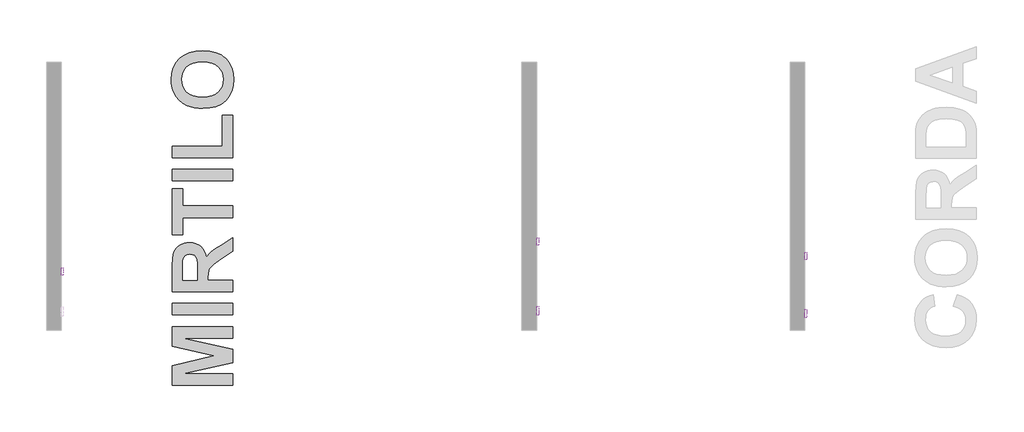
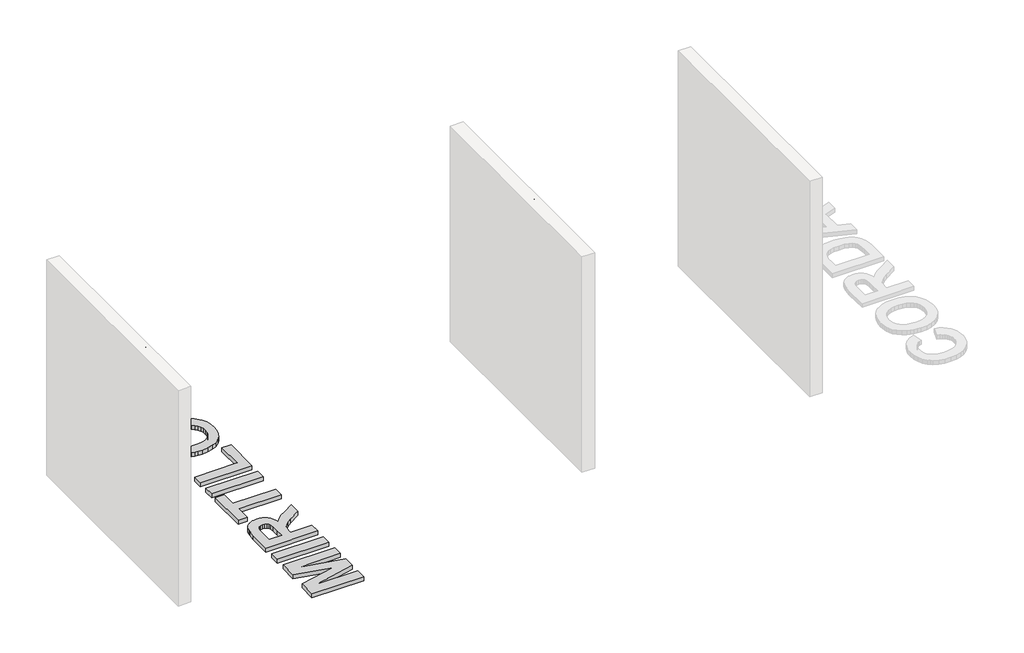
# One storey, part 5 of 9: 6 proxies.
"""IFC4 building model written with IfcOpenShell, lengths in millimetres."""

from ifc_helpers import new_model, si_unit, frame, origin, origin_with_axes, place, context, project, spatial, polyline, outline, extrude, element, save

model = new_model("IFC4")

# Units and contexts
model_context = context("Model", 3, world=origin())
ifc_project = project(units=[si_unit("LENGTHUNIT", "METRE", prefix="MILLI")], contexts=[model_context])

# Site, building, storey
site = spatial("IfcSite", under=ifc_project)
building = spatial("IfcBuilding", under=site)
storey = spatial("IfcBuildingStorey", under=building, Name="PORTOBELLO - SHOWROOM", Elevation=0.0)

# Proxies
placement = place(None, origin())
element("IfcBuildingElementProxy", 1, Name="10mm Arial", ObjectType="10mm Arial", at=placement, inside=storey, context=model_context, shape_type="SweptSolid", body=[
    extrude(outline(polyline([(-2397.5035684, 2581.4003506), (-2384.9465296, 2578.162989), (-2390.7406711, 2563.5304826), (-2399.8334877, 2552.840445), (-2411.7773898, 2546.3013425), (-2426.1247876, 2544.1216417), (-2440.689849, 2545.7709793), (-2452.256672, 2550.7189922), (-2461.1226281, 2558.794002), (-2467.5850885, 2569.8243304), (-2472.845801, 2596.6797161), (-2471.3589446, 2611.3275509), (-2466.8983754, 2623.9765601), (-2459.6970854, 2634.2251394), (-2449.9880664, 2641.6716841), (-2438.4733599, 2646.2058297), (-2425.8550075, 2647.7172116), (-2412.0870238, 2645.7613056), (-2400.7041418, 2639.8935878), (-2392.0619806, 2630.4758087), (-2386.5161595, 2617.869719), (-2399.0731983, 2614.8776121), (-2409.3738941, 2630.3163932), (-2426.3455168, 2635.1601728), (-2445.9904154, 2629.7890957), (-2457.0881889, 2615.3681214), (-2460.2887623, 2596.7042416), (-2456.4995777, 2575.0727802), (-2444.7028284, 2561.25268), (-2427.3755864, 2556.6786805), (-2416.8940152, 2558.2360476), (-2408.1598835, 2562.9081489), (-2401.5655988, 2570.6459336), (-2397.5035684, 2581.4003506)])), frame((7985.6593854, 0.0, 0.0), z_axis=(1.0, 0.0, 0.0), x_axis=(0.0, 1.0, 0.0)), (0.0, 0.0, 1.0), 20.0),
    extrude(outline(polyline([(-2372.3894909, 2582.5775729), (-2369.6732955, 2600.3646674), (-2361.5247093, 2612.8665239), (-2351.4570053, 2618.9917591), (-2339.4027386, 2621.0335042), (-2326.2111034, 2618.547235), (-2315.6743499, 2611.0884276), (-2308.7673655, 2599.245693), (-2306.4650373, 2583.6076425), (-2310.5362647, 2561.2649427), (-2322.3943277, 2548.6220648), (-2339.4027386, 2544.1216417), (-2352.7537894, 2546.5987138), (-2363.2782801, 2554.0299301), (-2370.1116882, 2566.120985), (-2372.3894909, 2582.5775729)]), holes=[polyline([(-2359.8324521, 2582.6020984), (-2358.3793182, 2571.2376104), (-2354.0199166, 2563.1411409), (-2347.4593543, 2558.2942956), (-2339.4027386, 2556.6786805), (-2331.3829111, 2558.3034926), (-2324.8346116, 2563.1779291), (-2320.47521, 2571.3816976), (-2319.0220761, 2582.9945059), (-2320.484407, 2594.0279), (-2324.8713998, 2602.014005), (-2331.4288964, 2606.8608503), (-2339.4027386, 2608.4764654), (-2347.4593543, 2606.8669817), (-2354.0199166, 2602.0385305), (-2358.3793182, 2593.960455), (-2359.8324521, 2582.6020984)])]), frame((7985.6593854, 0.0, 0.0), z_axis=(1.0, 0.0, 0.0), x_axis=(0.0, 1.0, 0.0)), (0.0, 0.0, 1.0), 20.0),
    extrude(outline(polyline([(-2292.3383687, 2545.6912716), (-2292.3383687, 2619.4638743), (-2281.3509598, 2619.4638743), (-2281.3509598, 2608.5500418), (-2273.5518615, 2618.605483), (-2265.7037123, 2621.0335042), (-2253.0976226, 2617.1584805), (-2257.2914773, 2605.9012914), (-2266.1206452, 2608.4764654), (-2273.2207677, 2605.9993933), (-2277.7457162, 2599.1322627), (-2279.78133, 2584.4660339), (-2279.78133, 2545.6912716), (-2292.3383687, 2545.6912716)])), frame((7985.6593854, 0.0, 0.0), z_axis=(1.0, 0.0, 0.0), x_axis=(0.0, 1.0, 0.0)), (0.0, 0.0, 1.0), 20.0),
    extrude(outline(polyline([(-2199.7302078, 2545.6912716), (-2199.7302078, 2557.5370718), (-2208.0382095, 2547.4754992), (-2219.5222591, 2544.1216417), (-2235.0714048, 2548.9776841), (-2246.0588137, 2562.5280042), (-2249.9583629, 2582.5039965), (-2246.3653821, 2602.4922516), (-2235.5987023, 2616.2510382), (-2219.5713101, 2621.0335042), (-2207.99529, 2617.6122016), (-2199.7302078, 2608.7217201), (-2199.7302078, 2646.1475817), (-2187.173169, 2646.1475817), (-2187.173169, 2545.6912716), (-2199.7302078, 2545.6912716)]), holes=[polyline([(-2237.4013241, 2582.5530475), (-2235.9849784, 2571.1946909), (-2231.7359414, 2563.1166154), (-2225.5616552, 2558.2881642), (-2218.3695622, 2556.6786805), (-2211.1805349, 2558.2145878), (-2205.1625986, 2562.8223098), (-2201.0883055, 2570.5876856), (-2199.7302078, 2581.5965543), (-2201.112831, 2593.6324269), (-2205.2607005, 2601.9772168), (-2211.4319209, 2606.8516533), (-2218.884597, 2608.4764654), (-2226.1502664, 2606.9160326), (-2232.1038234, 2602.2347342), (-2236.0769489, 2594.1934469), (-2237.4013241, 2582.5530475)])]), frame((7985.6593854, 0.0, 0.0), z_axis=(1.0, 0.0, 0.0), x_axis=(0.0, 1.0, 0.0)), (0.0, 0.0, 1.0), 20.0),
    extrude(outline(polyline([(-2121.2487155, 2555.1090506), (-2133.4256095, 2546.5987138), (-2146.8778278, 2544.1216417), (-2157.3716617, 2545.6115638), (-2165.1125121, 2550.08133), (-2169.8857809, 2556.8687528), (-2171.4768706, 2565.3116446), (-2169.0733749, 2575.2444585), (-2162.7580673, 2582.4549456), (-2153.9656876, 2586.575224), (-2143.100906, 2588.4636849), (-2121.3222919, 2592.7801669), (-2121.2487155, 2595.5760701), (-2124.7068063, 2604.8466964), (-2138.5882202, 2608.4764654), (-2151.2924118, 2606.060707), (-2157.350202, 2597.4890565), (-2169.9072407, 2599.0586863), (-2164.4748499, 2611.3214195), (-2153.5364919, 2618.5073811), (-2136.9695394, 2621.0335042), (-2121.7514876, 2618.8016867), (-2113.1553116, 2613.1976177), (-2109.3048134, 2604.6750181), (-2108.6916767, 2593.6876092), (-2108.6916767, 2578.0648871), (-2108.0540146, 2556.2494848), (-2105.552417, 2545.6912716), (-2118.1094558, 2545.6912716), (-2121.2487155, 2555.1090506)]), holes=[polyline([(-2121.2487155, 2580.2231282), (-2141.5067507, 2576.37263), (-2152.3102186, 2574.3370163), (-2157.2030492, 2571.0260783), (-2158.9198318, 2566.1945614), (-2155.1796982, 2559.4010072), (-2144.204552, 2556.6786805), (-2131.5003604, 2559.6830501), (-2123.3088547, 2566.9548509), (-2121.3222919, 2576.6669356), (-2121.2487155, 2580.2231282)])]), frame((7985.6593854, 0.0, 0.0), z_axis=(1.0, 0.0, 0.0), x_axis=(0.0, 1.0, 0.0)), (0.0, 0.0, 1.0), 20.0),
])
element("IfcBuildingElementProxy", 2, Name="10mm Arial", ObjectType="10mm Arial", at=placement, inside=storey, context=model_context, shape_type="SweptSolid", body=[
    extrude(outline(polyline([(-2058.1369115, 2545.6912716), (-2058.1369115, 2646.1475817), (-2020.9072536, 2646.1475817), (-2005.8976682, 2645.1910885), (-1993.6962487, 2640.4944617), (-1985.7867858, 2630.782377), (-1982.7946789, 2617.0849041), (-1984.8149642, 2605.2452352), (-1990.87582, 2595.3798664), (-2002.2096512, 2588.7212023), (-2020.0488622, 2586.5016476), (-2045.5798727, 2586.5016476), (-2045.5798727, 2545.6912716), (-2058.1369115, 2545.6912716)]), holes=[polyline([(-2045.5798727, 2599.0586863), (-2019.3130983, 2599.0586863), (-2000.8208966, 2603.669474), (-1996.7190124, 2609.2183608), (-1995.3517176, 2616.6434457), (-1998.5768165, 2627.0422434), (-2007.0503651, 2632.7321516), (-2019.6074039, 2633.5905429), (-2045.5798727, 2633.5905429), (-2045.5798727, 2599.0586863)])]), frame((7985.6593854, 0.0, 0.0), z_axis=(1.0, 0.0, 0.0), x_axis=(0.0, 1.0, 0.0)), (0.0, 0.0, 1.0), 20.0),
    extrude(outline(polyline([(-1970.2376401, 2582.5775729), (-1967.5214447, 2600.3646674), (-1959.3728585, 2612.8665239), (-1949.3051546, 2618.9917591), (-1937.2508879, 2621.0335042), (-1924.0592527, 2618.547235), (-1913.5224992, 2611.0884276), (-1906.6155147, 2599.245693), (-1904.3131866, 2583.6076425), (-1908.384414, 2561.2649427), (-1920.242477, 2548.6220648), (-1937.2508879, 2544.1216417), (-1950.6019386, 2546.5987138), (-1961.1264294, 2554.0299301), (-1967.9598374, 2566.120985), (-1970.2376401, 2582.5775729)]), holes=[polyline([(-1957.6806013, 2582.6020984), (-1956.2274675, 2571.2376104), (-1951.8680658, 2563.1411409), (-1945.3075036, 2558.2942956), (-1937.2508879, 2556.6786805), (-1929.2310604, 2558.3034926), (-1922.6827609, 2563.1779291), (-1918.3233592, 2571.3816976), (-1916.8702253, 2582.9945059), (-1918.3325563, 2594.0279), (-1922.7195491, 2602.014005), (-1929.2770456, 2606.8608503), (-1937.2508879, 2608.4764654), (-1945.3075036, 2606.8669817), (-1951.8680658, 2602.0385305), (-1956.2274675, 2593.960455), (-1957.6806013, 2582.6020984)])]), frame((7985.6593854, 0.0, 0.0), z_axis=(1.0, 0.0, 0.0), x_axis=(0.0, 1.0, 0.0)), (0.0, 0.0, 1.0), 20.0),
    extrude(outline(polyline([(-1890.186518, 2545.6912716), (-1890.186518, 2619.4638743), (-1879.199109, 2619.4638743), (-1879.199109, 2608.5500418), (-1871.4000107, 2618.605483), (-1863.5518615, 2621.0335042), (-1850.9457718, 2617.1584805), (-1855.1396265, 2605.9012914), (-1863.9687944, 2608.4764654), (-1871.0689169, 2605.9993933), (-1875.5938655, 2599.1322627), (-1877.6294792, 2584.4660339), (-1877.6294792, 2545.6912716), (-1890.186518, 2545.6912716)])), frame((7985.6593854, 0.0, 0.0), z_axis=(1.0, 0.0, 0.0), x_axis=(0.0, 1.0, 0.0)), (0.0, 0.0, 1.0), 20.0),
    extrude(outline(polyline([(-1816.4139152, 2556.1636457), (-1814.8442853, 2545.3233896), (-1824.2375389, 2544.1216417), (-1834.758964, 2546.2063064), (-1840.0074138, 2551.6754853), (-1841.5279927, 2565.9247813), (-1841.5279927, 2606.9068356), (-1850.9457718, 2606.9068356), (-1850.9457718, 2617.1584805), (-1850.9457718, 2619.4638743), (-1841.5279927, 2619.4638743), (-1841.5279927, 2637.3919902), (-1828.970954, 2644.7741556), (-1828.970954, 2619.4638743), (-1816.4139152, 2619.4638743), (-1816.4139152, 2606.9068356), (-1828.970954, 2606.9068356), (-1828.970954, 2566.2926633), (-1828.3087664, 2559.8179402), (-1826.1627881, 2557.5248091), (-1821.8830942, 2556.6786805), (-1816.4139152, 2556.1636457)])), frame((7985.6593854, 0.0, 0.0), z_axis=(1.0, 0.0, 0.0), x_axis=(0.0, 1.0, 0.0)), (0.0, 0.0, 1.0), 20.0),
    extrude(outline(polyline([(-1806.9961361, 2582.5775729), (-1804.2799407, 2600.3646674), (-1796.1313545, 2612.8665239), (-1786.0636506, 2618.9917591), (-1774.0093839, 2621.0335042), (-1760.8177487, 2618.547235), (-1750.2809952, 2611.0884276), (-1743.3740107, 2599.245693), (-1741.0716826, 2583.6076425), (-1745.14291, 2561.2649427), (-1757.000973, 2548.6220648), (-1774.0093839, 2544.1216417), (-1787.3604346, 2546.5987138), (-1797.8849254, 2554.0299301), (-1804.7183334, 2566.120985), (-1806.9961361, 2582.5775729)]), holes=[polyline([(-1794.4390973, 2582.6020984), (-1792.9859635, 2571.2376104), (-1788.6265618, 2563.1411409), (-1782.0659996, 2558.2942956), (-1774.0093839, 2556.6786805), (-1765.9895564, 2558.3034926), (-1759.4412569, 2563.1779291), (-1755.0818552, 2571.3816976), (-1753.6287213, 2582.9945059), (-1755.0910523, 2594.0279), (-1759.4780451, 2602.014005), (-1766.0355416, 2606.8608503), (-1774.0093839, 2608.4764654), (-1782.0659996, 2606.8669817), (-1788.6265618, 2602.0385305), (-1792.9859635, 2593.960455), (-1794.4390973, 2582.6020984)])]), frame((7985.6593854, 0.0, 0.0), z_axis=(1.0, 0.0, 0.0), x_axis=(0.0, 1.0, 0.0)), (0.0, 0.0, 1.0), 20.0),
    extrude(outline(polyline([(-1714.3879752, 2545.6912716), (-1726.945014, 2545.6912716), (-1726.945014, 2646.1475817), (-1714.3879752, 2646.1475817), (-1714.3879752, 2608.8933983), (-1705.5955955, 2617.9984777), (-1694.6695002, 2621.0335042), (-1682.087936, 2618.2989147), (-1672.3268004, 2610.610181), (-1666.3303239, 2598.6540161), (-1664.1598201, 2583.6812189), (-1666.406966, 2566.9180627), (-1673.1484035, 2554.446863), (-1683.0413635, 2546.702947), (-1694.7430766, 2544.1216417), (-1705.9082952, 2547.4509738), (-1714.3879752, 2557.4389699), (-1714.3879752, 2545.6912716)]), holes=[polyline([(-1714.3879752, 2583.0926077), (-1710.9544099, 2565.5323738), (-1704.3754536, 2558.8921038), (-1695.8221972, 2556.6786805), (-1688.5749219, 2558.309624), (-1682.3822416, 2563.2024545), (-1678.1332046, 2571.3265153), (-1676.7168589, 2582.6511493), (-1678.0749566, 2594.1413303), (-1682.1492497, 2602.1734206), (-1688.1487919, 2606.9007042), (-1695.2826369, 2608.4764654), (-1702.5299122, 2606.8455219), (-1708.7225925, 2601.9526914), (-1712.9716295, 2593.9757834), (-1714.3879752, 2583.0926077)])]), frame((7985.6593854, 0.0, 0.0), z_axis=(1.0, 0.0, 0.0), x_axis=(0.0, 1.0, 0.0)), (0.0, 0.0, 1.0), 20.0),
    extrude(outline(polyline([(-1598.3825194, 2567.6660894), (-1586.0707353, 2566.0964596), (-1590.506779, 2556.8197019), (-1597.5854417, 2549.8851263), (-1607.1473079, 2545.5625129), (-1619.032962, 2544.1216417), (-1633.7666359, 2546.6079109), (-1645.1035328, 2554.0667183), (-1652.332414, 2566.0136861), (-1654.742041, 2581.9644363), (-1652.3078885, 2598.451681), (-1645.0054309, 2610.7818592), (-1633.8218182, 2618.4705929), (-1619.7442006, 2621.0335042), (-1606.1049756, 2618.4767243), (-1595.2064715, 2610.8063847), (-1588.0603637, 2598.500732), (-1585.6783278, 2582.0380127), (-1585.7519042, 2578.6534983), (-1642.1850023, 2578.6534983), (-1640.0114328, 2569.2541134), (-1634.9622524, 2562.3440632), (-1627.6751232, 2558.0950262), (-1618.7877074, 2556.6786805), (-1606.4759233, 2559.3029054), (-1598.3825194, 2567.6660894)]), holes=[polyline([(-1642.1850023, 2591.2105371), (-1598.2353666, 2591.2105371), (-1603.2630872, 2602.5903535), (-1610.5839389, 2607.0049374), (-1619.7932515, 2608.4764654), (-1635.256558, 2603.7798386), (-1640.1217974, 2598.2891998), (-1642.1850023, 2591.2105371)])]), frame((7985.6593854, 0.0, 0.0), z_axis=(1.0, 0.0, 0.0), x_axis=(0.0, 1.0, 0.0)), (0.0, 0.0, 1.0), 20.0),
    extrude(outline(polyline([(8005.6593854, -1560.5642503), (8005.6593854, -1573.121289), (7985.6593854, -1573.121289), (7985.6593854, -1560.5642503), (8005.6593854, -1560.5642503)])), frame((0.0, 0.0, 2545.6912716), z_axis=(0.0, 0.0, 1.0), x_axis=(1.0, 0.0, 0.0)), (0.0, 0.0, 1.0), 100.4563101),
    extrude(outline(polyline([(8005.6593854, -1529.1716534), (8005.6593854, -1541.7286921), (7985.6593854, -1541.7286921), (7985.6593854, -1529.1716534), (8005.6593854, -1529.1716534)])), frame((0.0, 0.0, 2545.6912716), z_axis=(0.0, 0.0, 1.0), x_axis=(1.0, 0.0, 0.0)), (0.0, 0.0, 1.0), 100.4563101),
    extrude(outline(polyline([(-1513.4753549, 2582.5775729), (-1510.7591595, 2600.3646674), (-1502.6105733, 2612.8665239), (-1492.5428694, 2618.9917591), (-1480.4886027, 2621.0335042), (-1467.2969674, 2618.547235), (-1456.760214, 2611.0884276), (-1449.8532295, 2599.245693), (-1447.5509014, 2583.6076425), (-1451.6221288, 2561.2649427), (-1463.4801917, 2548.6220648), (-1480.4886027, 2544.1216417), (-1493.8396534, 2546.5987138), (-1504.3641441, 2554.0299301), (-1511.1975522, 2566.120985), (-1513.4753549, 2582.5775729)]), holes=[polyline([(-1500.9183161, 2582.6020984), (-1499.4651822, 2571.2376104), (-1495.1057806, 2563.1411409), (-1488.5452183, 2558.2942956), (-1480.4886027, 2556.6786805), (-1472.4687752, 2558.3034926), (-1465.9204756, 2563.1779291), (-1461.561074, 2571.3816976), (-1460.1079401, 2582.9945059), (-1461.5702711, 2594.0279), (-1465.9572638, 2602.014005), (-1472.5147604, 2606.8608503), (-1480.4886027, 2608.4764654), (-1488.5452183, 2606.8669817), (-1495.1057806, 2602.0385305), (-1499.4651822, 2593.960455), (-1500.9183161, 2582.6020984)])]), frame((7985.6593854, 0.0, 0.0), z_axis=(1.0, 0.0, 0.0), x_axis=(0.0, 1.0, 0.0)), (0.0, 0.0, 1.0), 20.0),
])
element("IfcBuildingElementProxy", 3, Name="10mm Arial", ObjectType="10mm Arial", at=placement, inside=storey, context=model_context, shape_type="SweptSolid", body=[
    extrude(outline(polyline([(-2046.1613863, 2558.4095218), (-2046.1613863, 2658.8658319), (-2008.9317284, 2658.8658319), (-1993.922143, 2657.9093387), (-1981.7207235, 2653.2127119), (-1973.8112606, 2643.5006273), (-1970.8191537, 2629.8031543), (-1972.839439, 2617.9634854), (-1978.9002948, 2608.0981166), (-1990.234126, 2601.4394525), (-2008.073337, 2599.2198978), (-2033.6043475, 2599.2198978), (-2033.6043475, 2558.4095218), (-2046.1613863, 2558.4095218)]), holes=[polyline([(-2033.6043475, 2611.7769366), (-2007.337573, 2611.7769366), (-1988.8453714, 2616.3877242), (-1984.7434872, 2621.936611), (-1983.3761924, 2629.3616959), (-1986.6012913, 2639.7604937), (-1995.0748399, 2645.4504018), (-2007.6318786, 2646.3087932), (-2033.6043475, 2646.3087932), (-2033.6043475, 2611.7769366)])]), frame((499.3339478, 0.0, 0.0), z_axis=(1.0, 0.0, 0.0), x_axis=(0.0, 1.0, 0.0)), (0.0, 0.0, 1.0), 20.0),
    extrude(outline(polyline([(-1958.2621149, 2595.2958232), (-1955.5459195, 2613.0829176), (-1947.3973333, 2625.5847741), (-1937.3296294, 2631.7100093), (-1925.2753627, 2633.7517544), (-1912.0837274, 2631.2654852), (-1901.546974, 2623.8066778), (-1894.6399895, 2611.9639432), (-1892.3376614, 2596.3258928), (-1896.4088888, 2573.9831929), (-1908.2669517, 2561.340315), (-1925.2753627, 2556.8398919), (-1938.6264134, 2559.316964), (-1949.1509041, 2566.7481803), (-1955.9843122, 2578.8392353), (-1958.2621149, 2595.2958232)]), holes=[polyline([(-1945.7050761, 2595.3203486), (-1944.2519422, 2583.9558607), (-1939.8925406, 2575.8593911), (-1933.3319784, 2571.0125458), (-1925.2753627, 2569.3969307), (-1917.2555352, 2571.0217429), (-1910.7072356, 2575.8961793), (-1906.347834, 2584.0999478), (-1904.8947001, 2595.7127561), (-1906.3570311, 2606.7461503), (-1910.7440238, 2614.7322552), (-1917.3015204, 2619.5791005), (-1925.2753627, 2621.1947156), (-1933.3319784, 2619.5852319), (-1939.8925406, 2614.7567807), (-1944.2519422, 2606.6787052), (-1945.7050761, 2595.3203486)])]), frame((499.3339478, 0.0, 0.0), z_axis=(1.0, 0.0, 0.0), x_axis=(0.0, 1.0, 0.0)), (0.0, 0.0, 1.0), 20.0),
    extrude(outline(polyline([(-1878.2109927, 2558.4095218), (-1878.2109927, 2632.1821246), (-1867.2235838, 2632.1821246), (-1867.2235838, 2621.268292), (-1859.4244855, 2631.3237332), (-1851.5763363, 2633.7517544), (-1838.9702466, 2629.8767307), (-1843.1641013, 2618.6195417), (-1851.9932692, 2621.1947156), (-1859.0933917, 2618.7176435), (-1863.6183403, 2611.850513), (-1865.653954, 2597.1842841), (-1865.653954, 2558.4095218), (-1878.2109927, 2558.4095218)])), frame((499.3339478, 0.0, 0.0), z_axis=(1.0, 0.0, 0.0), x_axis=(0.0, 1.0, 0.0)), (0.0, 0.0, 1.0), 20.0),
    extrude(outline(polyline([(-1804.43839, 2568.8818959), (-1802.8687601, 2558.0416398), (-1812.2620137, 2556.8398919), (-1822.7834388, 2558.9245566), (-1828.0318886, 2564.3937356), (-1829.5524675, 2578.6430315), (-1829.5524675, 2619.6250858), (-1838.9702466, 2619.6250858), (-1838.9702466, 2629.8767307), (-1838.9702466, 2632.1821246), (-1829.5524675, 2632.1821246), (-1829.5524675, 2650.1102405), (-1816.9954287, 2657.4924058), (-1816.9954287, 2632.1821246), (-1804.43839, 2632.1821246), (-1804.43839, 2619.6250858), (-1816.9954287, 2619.6250858), (-1816.9954287, 2579.0109135), (-1816.3332412, 2572.5361904), (-1814.1872628, 2570.2430593), (-1809.907569, 2569.3969307), (-1804.43839, 2568.8818959)])), frame((499.3339478, 0.0, 0.0), z_axis=(1.0, 0.0, 0.0), x_axis=(0.0, 1.0, 0.0)), (0.0, 0.0, 1.0), 20.0),
    extrude(outline(polyline([(-1795.0206109, 2595.2958232), (-1792.3044155, 2613.0829176), (-1784.1558293, 2625.5847741), (-1774.0881254, 2631.7100093), (-1762.0338587, 2633.7517544), (-1748.8422235, 2631.2654852), (-1738.30547, 2623.8066778), (-1731.3984855, 2611.9639432), (-1729.0961574, 2596.3258928), (-1733.1673848, 2573.9831929), (-1745.0254478, 2561.340315), (-1762.0338587, 2556.8398919), (-1775.3849094, 2559.316964), (-1785.9094002, 2566.7481803), (-1792.7428082, 2578.8392353), (-1795.0206109, 2595.2958232)]), holes=[polyline([(-1782.4635721, 2595.3203486), (-1781.0104382, 2583.9558607), (-1776.6510366, 2575.8593911), (-1770.0904744, 2571.0125458), (-1762.0338587, 2569.3969307), (-1754.0140312, 2571.0217429), (-1747.4657317, 2575.8961793), (-1743.10633, 2584.0999478), (-1741.6531961, 2595.7127561), (-1743.1155271, 2606.7461503), (-1747.5025199, 2614.7322552), (-1754.0600164, 2619.5791005), (-1762.0338587, 2621.1947156), (-1770.0904744, 2619.5852319), (-1776.6510366, 2614.7567807), (-1781.0104382, 2606.6787052), (-1782.4635721, 2595.3203486)])]), frame((499.3339478, 0.0, 0.0), z_axis=(1.0, 0.0, 0.0), x_axis=(0.0, 1.0, 0.0)), (0.0, 0.0, 1.0), 20.0),
    extrude(outline(polyline([(-1702.41245, 2558.4095218), (-1714.9694887, 2558.4095218), (-1714.9694887, 2658.8658319), (-1702.41245, 2658.8658319), (-1702.41245, 2621.6116486), (-1693.6200703, 2630.7167279), (-1682.693975, 2633.7517544), (-1670.1124108, 2631.0171649), (-1660.3512752, 2623.3284312), (-1654.3547987, 2611.3722664), (-1652.1842949, 2596.3994692), (-1654.4314408, 2579.6363129), (-1661.1728783, 2567.1651133), (-1671.0658383, 2559.4211973), (-1682.7675514, 2556.8398919), (-1693.93277, 2560.169224), (-1702.41245, 2570.1572202), (-1702.41245, 2558.4095218)]), holes=[polyline([(-1702.41245, 2595.810858), (-1698.9788847, 2578.2506241), (-1692.3999283, 2571.610354), (-1683.846672, 2569.3969307), (-1676.5993967, 2571.0278742), (-1670.4067164, 2575.9207048), (-1666.1576794, 2584.0447655), (-1664.7413337, 2595.3693996), (-1666.0994314, 2606.8595806), (-1670.1737245, 2614.8916708), (-1676.1732667, 2619.6189544), (-1683.3071117, 2621.1947156), (-1690.554387, 2619.5637721), (-1696.7470673, 2614.6709416), (-1700.9961043, 2606.6940337), (-1702.41245, 2595.810858)])]), frame((499.3339478, 0.0, 0.0), z_axis=(1.0, 0.0, 0.0), x_axis=(0.0, 1.0, 0.0)), (0.0, 0.0, 1.0), 20.0),
    extrude(outline(polyline([(-1586.4069942, 2580.3843396), (-1574.0952101, 2578.8147098), (-1578.5312538, 2569.5379521), (-1585.6099165, 2562.6033765), (-1595.1717827, 2558.2807631), (-1607.0574368, 2556.8398919), (-1621.7911107, 2559.3261611), (-1633.1280076, 2566.7849685), (-1640.3568888, 2578.7319363), (-1642.7665158, 2594.6826865), (-1640.3323633, 2611.1699313), (-1633.0299057, 2623.5001095), (-1621.846293, 2631.1888432), (-1607.7686754, 2633.7517544), (-1594.1294504, 2631.1949745), (-1583.2309463, 2623.5246349), (-1576.0848385, 2611.2189822), (-1573.7028026, 2594.7562629), (-1573.776379, 2591.3717486), (-1630.2094771, 2591.3717486), (-1628.0359076, 2581.9723636), (-1622.9867272, 2575.0623134), (-1615.699598, 2570.8132764), (-1606.8121822, 2569.3969307), (-1594.5003981, 2572.0211556), (-1586.4069942, 2580.3843396)]), holes=[polyline([(-1630.2094771, 2603.9287873), (-1586.2598414, 2603.9287873), (-1591.287562, 2615.3086037), (-1598.6084137, 2619.7231876), (-1607.8177263, 2621.1947156), (-1623.2810328, 2616.4980888), (-1628.1462722, 2611.00745), (-1630.2094771, 2603.9287873)])]), frame((499.3339478, 0.0, 0.0), z_axis=(1.0, 0.0, 0.0), x_axis=(0.0, 1.0, 0.0)), (0.0, 0.0, 1.0), 20.0),
    extrude(outline(polyline([(519.3339478, -1548.5887251), (519.3339478, -1561.1457638), (499.3339478, -1561.1457638), (499.3339478, -1548.5887251), (519.3339478, -1548.5887251)])), frame((0.0, 0.0, 2558.4095218), z_axis=(0.0, 0.0, 1.0), x_axis=(1.0, 0.0, 0.0)), (0.0, 0.0, 1.0), 100.4563101),
    extrude(outline(polyline([(519.3339478, -1517.1961281), (519.3339478, -1529.7531669), (499.3339478, -1529.7531669), (499.3339478, -1517.1961281), (519.3339478, -1517.1961281)])), frame((0.0, 0.0, 2558.4095218), z_axis=(0.0, 0.0, 1.0), x_axis=(1.0, 0.0, 0.0)), (0.0, 0.0, 1.0), 100.4563101),
    extrude(outline(polyline([(-1501.4998297, 2595.2958232), (-1498.7836343, 2613.0829176), (-1490.6350481, 2625.5847741), (-1480.5673442, 2631.7100093), (-1468.5130774, 2633.7517544), (-1455.3214422, 2631.2654852), (-1444.7846888, 2623.8066778), (-1437.8777043, 2611.9639432), (-1435.5753761, 2596.3258928), (-1439.6466036, 2573.9831929), (-1451.5046665, 2561.340315), (-1468.5130774, 2556.8398919), (-1481.8641282, 2559.316964), (-1492.3886189, 2566.7481803), (-1499.222027, 2578.8392353), (-1501.4998297, 2595.2958232)]), holes=[polyline([(-1488.9427909, 2595.3203486), (-1487.489657, 2583.9558607), (-1483.1302554, 2575.8593911), (-1476.5696931, 2571.0125458), (-1468.5130774, 2569.3969307), (-1460.49325, 2571.0217429), (-1453.9449504, 2575.8961793), (-1449.5855488, 2584.0999478), (-1448.1324149, 2595.7127561), (-1449.5947458, 2606.7461503), (-1453.9817386, 2614.7322552), (-1460.5392352, 2619.5791005), (-1468.5130774, 2621.1947156), (-1476.5696931, 2619.5852319), (-1483.1302554, 2614.7567807), (-1487.489657, 2606.6787052), (-1488.9427909, 2595.3203486)])]), frame((499.3339478, 0.0, 0.0), z_axis=(1.0, 0.0, 0.0), x_axis=(0.0, 1.0, 0.0)), (0.0, 0.0, 1.0), 20.0),
])
element("IfcBuildingElementProxy", 4, Name="10mm Arial", ObjectType="10mm Arial", at=placement, inside=storey, context=model_context, shape_type="SweptSolid", body=[
    extrude(outline(polyline([(-2449.4812157, 2555.7330988), (-2449.4812157, 2656.1894089), (-2427.8742798, 2656.1894089), (-2407.321939, 2585.3843876), (-2403.1771352, 2570.5955314), (-2398.6889749, 2586.6106609), (-2378.4799906, 2656.1894089), (-2356.8730548, 2656.1894089), (-2356.8730548, 2555.7330988), (-2369.4300935, 2555.7330988), (-2369.4300935, 2643.6323702), (-2394.6667984, 2555.7330988), (-2411.687472, 2555.7330988), (-2436.9241769, 2643.6323702), (-2436.9241769, 2555.7330988), (-2449.4812157, 2555.7330988)])), frame((5285.6593854, 0.0, 0.0), z_axis=(1.0, 0.0, 0.0), x_axis=(0.0, 1.0, 0.0)), (0.0, 0.0, 1.0), 20.0),
    extrude(outline(polyline([(5305.6593854, -2323.910828), (5305.6593854, -2336.4678668), (5285.6593854, -2336.4678668), (5285.6593854, -2323.910828), (5305.6593854, -2323.910828)])), frame((0.0, 0.0, 2643.6323702), z_axis=(0.0, 0.0, 1.0), x_axis=(1.0, 0.0, 0.0)), (0.0, 0.0, 1.0), 12.5570388),
    extrude(outline(polyline([(5305.6593854, -2323.910828), (5305.6593854, -2336.4678668), (5285.6593854, -2336.4678668), (5285.6593854, -2323.910828), (5305.6593854, -2323.910828)])), frame((0.0, 0.0, 2555.7330988), z_axis=(0.0, 0.0, 1.0), x_axis=(1.0, 0.0, 0.0)), (0.0, 0.0, 1.0), 73.7726028),
    extrude(outline(polyline([(-2305.0752698, 2555.7330988), (-2305.0752698, 2629.5057016), (-2292.5182311, 2629.5057016), (-2292.5182311, 2619.2050057), (-2282.916511, 2628.10775), (-2269.8076492, 2631.0753314), (-2257.9495863, 2628.6840984), (-2249.8561824, 2622.405579), (-2246.0915233, 2613.171741), (-2245.4293357, 2601.0316351), (-2245.4293357, 2555.7330988), (-2257.9863745, 2555.7330988), (-2257.9863745, 2599.339378), (-2259.433377, 2610.4494142), (-2264.5469367, 2616.3232634), (-2273.1676381, 2618.5182926), (-2286.7915347, 2613.5886739), (-2291.086557, 2606.4456318), (-2292.5182311, 2594.8757431), (-2292.5182311, 2555.7330988), (-2305.0752698, 2555.7330988)])), frame((5285.6593854, 0.0, 0.0), z_axis=(1.0, 0.0, 0.0), x_axis=(0.0, 1.0, 0.0)), (0.0, 0.0, 1.0), 20.0),
    extrude(outline(polyline([(5305.6593854, -2215.6063686), (5305.6593854, -2228.1634074), (5285.6593854, -2228.1634074), (5285.6593854, -2215.6063686), (5305.6593854, -2215.6063686)])), frame((0.0, 0.0, 2643.6323702), z_axis=(0.0, 0.0, 1.0), x_axis=(1.0, 0.0, 0.0)), (0.0, 0.0, 1.0), 12.5570388),
    extrude(outline(polyline([(5305.6593854, -2215.6063686), (5305.6593854, -2228.1634074), (5285.6593854, -2228.1634074), (5285.6593854, -2215.6063686), (5305.6593854, -2215.6063686)])), frame((0.0, 0.0, 2555.7330988), z_axis=(0.0, 0.0, 1.0), x_axis=(1.0, 0.0, 0.0)), (0.0, 0.0, 1.0), 73.7726028),
    extrude(outline(polyline([(-2085.3270914, 2591.4421778), (-2072.7700526, 2588.2048162), (-2078.564194, 2573.5723099), (-2087.6570107, 2562.8822722), (-2099.6009128, 2556.3431698), (-2113.9483106, 2554.1634689), (-2128.5133719, 2555.8128066), (-2140.080195, 2560.7608194), (-2148.9461511, 2568.8358292), (-2155.4086115, 2579.8661577), (-2160.669324, 2606.7215433), (-2159.1824676, 2621.3693781), (-2154.7218984, 2634.0183874), (-2147.5206084, 2644.2669666), (-2137.8115894, 2651.7135113), (-2126.2968829, 2656.2476569), (-2113.6785305, 2657.7590388), (-2099.9105468, 2655.8031328), (-2088.5276647, 2649.935415), (-2079.8855035, 2640.5176359), (-2074.3396825, 2627.9115462), (-2086.8967212, 2624.9194393), (-2097.1974171, 2640.3582204), (-2114.1690398, 2645.202), (-2133.8139384, 2639.8309229), (-2144.9117119, 2625.4099487), (-2148.1122852, 2606.7460688), (-2144.3231007, 2585.1146075), (-2132.5263514, 2571.2945072), (-2115.1991094, 2566.7205077), (-2104.7175382, 2568.2778748), (-2095.9834065, 2572.9499762), (-2089.3891218, 2580.6877608), (-2085.3270914, 2591.4421778)])), frame((5285.6593854, 0.0, 0.0), z_axis=(1.0, 0.0, 0.0), x_axis=(0.0, 1.0, 0.0)), (0.0, 0.0, 1.0), 20.0),
    extrude(outline(polyline([(-2060.2130139, 2592.6194002), (-2057.4968185, 2610.4064946), (-2049.3482323, 2622.9083511), (-2039.2805283, 2629.0335863), (-2027.2262616, 2631.0753314), (-2014.0346264, 2628.5890623), (-2003.4978729, 2621.1302548), (-1996.5908885, 2609.2875202), (-1994.2885603, 2593.6494698), (-1998.3597877, 2571.3067699), (-2010.2178507, 2558.663892), (-2027.2262616, 2554.1634689), (-2040.5773124, 2556.640541), (-2051.1018031, 2564.0717573), (-2057.9352112, 2576.1628123), (-2060.2130139, 2592.6194002)]), holes=[polyline([(-2047.6559751, 2592.6439256), (-2046.2028412, 2581.2794377), (-2041.8434396, 2573.1829681), (-2035.2828773, 2568.3361228), (-2027.2262616, 2566.7205077), (-2019.2064341, 2568.3453199), (-2012.6581346, 2573.2197563), (-2008.298733, 2581.4235248), (-2006.8455991, 2593.0363331), (-2008.30793, 2604.0697273), (-2012.6949228, 2612.0558323), (-2019.2524194, 2616.9026775), (-2027.2262616, 2618.5182926), (-2035.2828773, 2616.9088089), (-2041.8434396, 2612.0803577), (-2046.2028412, 2604.0022822), (-2047.6559751, 2592.6439256)])]), frame((5285.6593854, 0.0, 0.0), z_axis=(1.0, 0.0, 0.0), x_axis=(0.0, 1.0, 0.0)), (0.0, 0.0, 1.0), 20.0),
    extrude(outline(polyline([(-1980.1618917, 2555.7330988), (-1980.1618917, 2629.5057016), (-1969.1744828, 2629.5057016), (-1969.1744828, 2618.591869), (-1961.3753845, 2628.6473102), (-1953.5272352, 2631.0753314), (-1940.9211455, 2627.2003077), (-1945.1150003, 2615.9431187), (-1953.9441682, 2618.5182926), (-1961.0442907, 2616.0412205), (-1965.5692392, 2609.17409), (-1967.6048529, 2594.5078611), (-1967.6048529, 2555.7330988), (-1980.1618917, 2555.7330988)])), frame((5285.6593854, 0.0, 0.0), z_axis=(1.0, 0.0, 0.0), x_axis=(0.0, 1.0, 0.0)), (0.0, 0.0, 1.0), 20.0),
    extrude(outline(polyline([(-1887.5537308, 2555.7330988), (-1887.5537308, 2567.578899), (-1895.8617325, 2557.5173265), (-1907.3457821, 2554.1634689), (-1922.8949278, 2559.0195113), (-1933.8823367, 2572.5698314), (-1937.7818859, 2592.5458238), (-1934.188905, 2612.5340788), (-1923.4222253, 2626.2928655), (-1907.3948331, 2631.0753314), (-1895.8188129, 2627.6540288), (-1887.5537308, 2618.7635473), (-1887.5537308, 2656.1894089), (-1874.996692, 2656.1894089), (-1874.996692, 2555.7330988), (-1887.5537308, 2555.7330988)]), holes=[polyline([(-1925.2248471, 2592.5948747), (-1923.8085014, 2581.2365181), (-1919.5594644, 2573.1584426), (-1913.3851782, 2568.3299914), (-1906.1930852, 2566.7205077), (-1899.0040579, 2568.256415), (-1892.9861216, 2572.864137), (-1888.9118285, 2580.6295128), (-1887.5537308, 2591.6383815), (-1888.9363539, 2603.6742541), (-1893.0842234, 2612.0190441), (-1899.2554439, 2616.8934805), (-1906.70812, 2618.5182926), (-1913.9737894, 2616.9578598), (-1919.9273464, 2612.2765614), (-1923.9004719, 2604.2352742), (-1925.2248471, 2592.5948747)])]), frame((5285.6593854, 0.0, 0.0), z_axis=(1.0, 0.0, 0.0), x_axis=(0.0, 1.0, 0.0)), (0.0, 0.0, 1.0), 20.0),
    extrude(outline(polyline([(-1809.0722385, 2565.1508779), (-1821.2491325, 2556.640541), (-1834.7013508, 2554.1634689), (-1845.1951847, 2555.653391), (-1852.936035, 2560.1231573), (-1857.7093039, 2566.9105801), (-1859.3003936, 2575.3534719), (-1856.8968978, 2585.2862857), (-1850.5815903, 2592.4967728), (-1841.7892106, 2596.6170512), (-1830.924429, 2598.5055121), (-1809.1458149, 2602.8219942), (-1809.0722385, 2605.6178973), (-1812.5303292, 2614.8885236), (-1826.4117432, 2618.5182926), (-1839.1159347, 2616.1025342), (-1845.1737249, 2607.5308837), (-1857.7307637, 2609.1005136), (-1852.2983729, 2621.3632467), (-1841.3600149, 2628.5492084), (-1824.7930624, 2631.0753314), (-1809.5750105, 2628.843514), (-1800.9788346, 2623.2394449), (-1797.1283364, 2614.7168453), (-1796.5151997, 2603.7294364), (-1796.5151997, 2588.1067144), (-1795.8775376, 2566.2913121), (-1793.37594, 2555.7330988), (-1805.9329788, 2555.7330988), (-1809.0722385, 2565.1508779)]), holes=[polyline([(-1809.0722385, 2590.2649554), (-1829.3302737, 2586.4144572), (-1840.1337416, 2584.3788435), (-1845.0265721, 2581.0679055), (-1846.7433548, 2576.2363887), (-1843.0032212, 2569.4428345), (-1832.028075, 2566.7205077), (-1819.3238834, 2569.7248773), (-1811.1323776, 2576.9966781), (-1809.1458149, 2586.7087628), (-1809.0722385, 2590.2649554)])]), frame((5285.6593854, 0.0, 0.0), z_axis=(1.0, 0.0, 0.0), x_axis=(0.0, 1.0, 0.0)), (0.0, 0.0, 1.0), 20.0),
])
element("IfcBuildingElementProxy", 5, Name="10mm Arial", ObjectType="10mm Arial", at=placement, inside=storey, context=model_context, shape_type="SweptSolid", body=[
    extrude(outline(polyline([(-1744.4812157, 2555.7330988), (-1744.4812157, 2656.1894089), (-1707.2515578, 2656.1894089), (-1692.2419724, 2655.2329158), (-1680.0405529, 2650.5362889), (-1672.13109, 2640.8242043), (-1669.1389831, 2627.1267313), (-1671.1592684, 2615.2870624), (-1677.2201242, 2605.4216936), (-1688.5539554, 2598.7630295), (-1706.3931664, 2596.5434748), (-1731.9241769, 2596.5434748), (-1731.9241769, 2555.7330988), (-1744.4812157, 2555.7330988)]), holes=[polyline([(-1731.9241769, 2609.1005136), (-1705.6574025, 2609.1005136), (-1687.1652008, 2613.7113012), (-1683.0633166, 2619.260188), (-1681.6960218, 2626.6852729), (-1684.9211207, 2637.0840707), (-1693.3946693, 2642.7739788), (-1705.9517081, 2643.6323702), (-1731.9241769, 2643.6323702), (-1731.9241769, 2609.1005136)])]), frame((5285.6593854, 0.0, 0.0), z_axis=(1.0, 0.0, 0.0), x_axis=(0.0, 1.0, 0.0)), (0.0, 0.0, 1.0), 20.0),
    extrude(outline(polyline([(-1656.5819443, 2592.6194002), (-1653.8657489, 2610.4064946), (-1645.7171627, 2622.9083511), (-1635.6494588, 2629.0335863), (-1623.5951921, 2631.0753314), (-1610.4035569, 2628.5890623), (-1599.8668034, 2621.1302548), (-1592.9598189, 2609.2875202), (-1590.6574908, 2593.6494698), (-1594.7287182, 2571.3067699), (-1606.5867812, 2558.663892), (-1623.5951921, 2554.1634689), (-1636.9462428, 2556.640541), (-1647.4707336, 2564.0717573), (-1654.3041416, 2576.1628123), (-1656.5819443, 2592.6194002)]), holes=[polyline([(-1644.0249055, 2592.6439256), (-1642.5717716, 2581.2794377), (-1638.21237, 2573.1829681), (-1631.6518078, 2568.3361228), (-1623.5951921, 2566.7205077), (-1615.5753646, 2568.3453199), (-1609.0270651, 2573.2197563), (-1604.6676634, 2581.4235248), (-1603.2145295, 2593.0363331), (-1604.6768605, 2604.0697273), (-1609.0638533, 2612.0558323), (-1615.6213498, 2616.9026775), (-1623.5951921, 2618.5182926), (-1631.6518078, 2616.9088089), (-1638.21237, 2612.0803577), (-1642.5717716, 2604.0022822), (-1644.0249055, 2592.6439256)])]), frame((5285.6593854, 0.0, 0.0), z_axis=(1.0, 0.0, 0.0), x_axis=(0.0, 1.0, 0.0)), (0.0, 0.0, 1.0), 20.0),
    extrude(outline(polyline([(-1576.5308221, 2555.7330988), (-1576.5308221, 2629.5057016), (-1565.5434132, 2629.5057016), (-1565.5434132, 2618.591869), (-1557.7443149, 2628.6473102), (-1549.8961657, 2631.0753314), (-1537.290076, 2627.2003077), (-1541.4839307, 2615.9431187), (-1550.3130986, 2618.5182926), (-1557.4132211, 2616.0412205), (-1561.9381697, 2609.17409), (-1563.9737834, 2594.5078611), (-1563.9737834, 2555.7330988), (-1576.5308221, 2555.7330988)])), frame((5285.6593854, 0.0, 0.0), z_axis=(1.0, 0.0, 0.0), x_axis=(0.0, 1.0, 0.0)), (0.0, 0.0, 1.0), 20.0),
    extrude(outline(polyline([(-1502.7582194, 2566.2054729), (-1501.1885895, 2555.3652168), (-1510.5818431, 2554.1634689), (-1521.1032682, 2556.2481336), (-1526.351718, 2561.7173126), (-1527.8722969, 2575.9666085), (-1527.8722969, 2616.9486628), (-1537.290076, 2616.9486628), (-1537.290076, 2627.2003077), (-1537.290076, 2629.5057016), (-1527.8722969, 2629.5057016), (-1527.8722969, 2647.4338175), (-1515.3152582, 2654.8159828), (-1515.3152582, 2629.5057016), (-1502.7582194, 2629.5057016), (-1502.7582194, 2616.9486628), (-1515.3152582, 2616.9486628), (-1515.3152582, 2576.3344905), (-1514.6530706, 2569.8597674), (-1512.5070923, 2567.5666363), (-1508.2273984, 2566.7205077), (-1502.7582194, 2566.2054729)])), frame((5285.6593854, 0.0, 0.0), z_axis=(1.0, 0.0, 0.0), x_axis=(0.0, 1.0, 0.0)), (0.0, 0.0, 1.0), 20.0),
    extrude(outline(polyline([(-1493.3404403, 2592.6194002), (-1490.6242449, 2610.4064946), (-1482.4756587, 2622.9083511), (-1472.4079548, 2629.0335863), (-1460.3536881, 2631.0753314), (-1447.1620529, 2628.5890623), (-1436.6252994, 2621.1302548), (-1429.7183149, 2609.2875202), (-1427.4159868, 2593.6494698), (-1431.4872142, 2571.3067699), (-1443.3452772, 2558.663892), (-1460.3536881, 2554.1634689), (-1473.7047388, 2556.640541), (-1484.2292296, 2564.0717573), (-1491.0626376, 2576.1628123), (-1493.3404403, 2592.6194002)]), holes=[polyline([(-1480.7834015, 2592.6439256), (-1479.3302677, 2581.2794377), (-1474.970866, 2573.1829681), (-1468.4103038, 2568.3361228), (-1460.3536881, 2566.7205077), (-1452.3338606, 2568.3453199), (-1445.7855611, 2573.2197563), (-1441.4261594, 2581.4235248), (-1439.9730255, 2593.0363331), (-1441.4353565, 2604.0697273), (-1445.8223493, 2612.0558323), (-1452.3798458, 2616.9026775), (-1460.3536881, 2618.5182926), (-1468.4103038, 2616.9088089), (-1474.970866, 2612.0803577), (-1479.3302677, 2604.0022822), (-1480.7834015, 2592.6439256)])]), frame((5285.6593854, 0.0, 0.0), z_axis=(1.0, 0.0, 0.0), x_axis=(0.0, 1.0, 0.0)), (0.0, 0.0, 1.0), 20.0),
    extrude(outline(polyline([(-1400.7322794, 2555.7330988), (-1413.2893182, 2555.7330988), (-1413.2893182, 2656.1894089), (-1400.7322794, 2656.1894089), (-1400.7322794, 2618.9352256), (-1391.9398997, 2628.0403049), (-1381.0138044, 2631.0753314), (-1368.4322402, 2628.3407419), (-1358.6711046, 2620.6520082), (-1352.6746281, 2608.6958434), (-1350.5041243, 2593.7230462), (-1352.7512702, 2576.9598899), (-1359.4927077, 2564.4886903), (-1369.3856677, 2556.7447743), (-1381.0873808, 2554.1634689), (-1392.2525994, 2557.492801), (-1400.7322794, 2567.4807972), (-1400.7322794, 2555.7330988)]), holes=[polyline([(-1400.7322794, 2593.134435), (-1397.2987141, 2575.5742011), (-1390.7197578, 2568.933931), (-1382.1665014, 2566.7205077), (-1374.9192261, 2568.3514512), (-1368.7265458, 2573.2442818), (-1364.4775088, 2581.3683425), (-1363.0611631, 2592.6929766), (-1364.4192608, 2604.1831576), (-1368.4935539, 2612.2152478), (-1374.4930961, 2616.9425314), (-1381.6269411, 2618.5182926), (-1388.8742164, 2616.8873491), (-1395.0668967, 2611.9945186), (-1399.3159337, 2604.0176107), (-1400.7322794, 2593.134435)])]), frame((5285.6593854, 0.0, 0.0), z_axis=(1.0, 0.0, 0.0), x_axis=(0.0, 1.0, 0.0)), (0.0, 0.0, 1.0), 20.0),
    extrude(outline(polyline([(-1284.7268236, 2577.7079166), (-1272.4150395, 2576.1382868), (-1276.8510832, 2566.8615291), (-1283.9297459, 2559.9269535), (-1293.4916121, 2555.6043401), (-1305.3772662, 2554.1634689), (-1320.1109401, 2556.6497381), (-1331.447837, 2564.1085455), (-1338.6767182, 2576.0555133), (-1341.0863452, 2592.0062635), (-1338.6521927, 2608.4935083), (-1331.3497351, 2620.8236865), (-1320.1661224, 2628.5124202), (-1306.0885048, 2631.0753314), (-1292.4492798, 2628.5185515), (-1281.5507757, 2620.8482119), (-1274.4046679, 2608.5425592), (-1272.022632, 2592.0798399), (-1272.0962084, 2588.6953256), (-1328.5293065, 2588.6953256), (-1326.355737, 2579.2959406), (-1321.3065566, 2572.3858904), (-1314.0194274, 2568.1368534), (-1305.1320116, 2566.7205077), (-1292.8202275, 2569.3447326), (-1284.7268236, 2577.7079166)]), holes=[polyline([(-1328.5293065, 2601.2523643), (-1284.5796708, 2601.2523643), (-1289.6073914, 2612.6321807), (-1296.9282431, 2617.0467647), (-1306.1375557, 2618.5182926), (-1321.6008622, 2613.8216658), (-1326.4661016, 2608.331027), (-1328.5293065, 2601.2523643)])]), frame((5285.6593854, 0.0, 0.0), z_axis=(1.0, 0.0, 0.0), x_axis=(0.0, 1.0, 0.0)), (0.0, 0.0, 1.0), 20.0),
    extrude(outline(polyline([(5305.6593854, -1246.9085545), (5305.6593854, -1259.4655932), (5285.6593854, -1259.4655932), (5285.6593854, -1246.9085545), (5305.6593854, -1246.9085545)])), frame((0.0, 0.0, 2555.7330988), z_axis=(0.0, 0.0, 1.0), x_axis=(1.0, 0.0, 0.0)), (0.0, 0.0, 1.0), 100.4563101),
    extrude(outline(polyline([(5305.6593854, -1215.5159575), (5305.6593854, -1228.0729963), (5285.6593854, -1228.0729963), (5285.6593854, -1215.5159575), (5305.6593854, -1215.5159575)])), frame((0.0, 0.0, 2555.7330988), z_axis=(0.0, 0.0, 1.0), x_axis=(1.0, 0.0, 0.0)), (0.0, 0.0, 1.0), 100.4563101),
    extrude(outline(polyline([(-1199.8196591, 2592.6194002), (-1197.1034637, 2610.4064946), (-1188.9548775, 2622.9083511), (-1178.8871736, 2629.0335863), (-1166.8329069, 2631.0753314), (-1153.6412716, 2628.5890623), (-1143.1045182, 2621.1302548), (-1136.1975337, 2609.2875202), (-1133.8952056, 2593.6494698), (-1137.966433, 2571.3067699), (-1149.8244959, 2558.663892), (-1166.8329069, 2554.1634689), (-1180.1839576, 2556.640541), (-1190.7084483, 2564.0717573), (-1197.5418564, 2576.1628123), (-1199.8196591, 2592.6194002)]), holes=[polyline([(-1187.2626203, 2592.6439256), (-1185.8094864, 2581.2794377), (-1181.4500848, 2573.1829681), (-1174.8895225, 2568.3361228), (-1166.8329069, 2566.7205077), (-1158.8130794, 2568.3453199), (-1152.2647798, 2573.2197563), (-1147.9053782, 2581.4235248), (-1146.4522443, 2593.0363331), (-1147.9145753, 2604.0697273), (-1152.301568, 2612.0558323), (-1158.8590646, 2616.9026775), (-1166.8329069, 2618.5182926), (-1174.8895225, 2616.9088089), (-1181.4500848, 2612.0803577), (-1185.8094864, 2604.0022822), (-1187.2626203, 2592.6439256)])]), frame((5285.6593854, 0.0, 0.0), z_axis=(1.0, 0.0, 0.0), x_axis=(0.0, 1.0, 0.0)), (0.0, 0.0, 1.0), 20.0),
])
element("IfcBuildingElementProxy", 6, Name="600mm Arial", ObjectType="600mm Arial", at=placement, inside=storey, context=model_context, shape_type="SweptSolid", body=[
    extrude(outline(polyline([(2226.4595648, -3153.3523318), (1614.3039248, -3153.3523318), (1614.3039248, -2953.5515327), (2031.8207924, -2856.991268), (1614.3039248, -2760.4310034), (1614.3039248, -2560.6302042), (2226.4595648, -2560.6302042), (2226.4595648, -2677.2312785), (1744.5691875, -2682.0896566), (2226.4595648, -2788.6703261), (2226.4595648, -2925.1603857), (1744.5691875, -3031.8928794), (2226.4595648, -3036.7512575), (2226.4595648, -3153.3523318)])), origin_with_axes(), (0.0, 0.0, 1.0), 50.0),
    extrude(outline(polyline([(2226.4595648, -2444.0291299), (1614.3039248, -2444.0291299), (1614.3039248, -2327.4280557), (2226.4595648, -2327.4280557), (2226.4595648, -2444.0291299)])), origin_with_axes(), (0.0, 0.0, 1.0), 50.0),
    extrude(outline(polyline([(2226.4595648, -2210.8269814), (1614.3039248, -2210.8269814), (1614.3039248, -1953.3329423), (1618.4411374, -1869.450008), (1623.6126532, -1837.4720116), (1630.8527752, -1812.136329), (1640.7403338, -1791.2225295), (1653.854159, -1772.5101826), (1670.194251, -1755.9992883), (1689.7606096, -1741.6898466), (1711.7087122, -1730.1322206), (1735.194036, -1721.8767734), (1760.216581, -1716.9235051), (1786.7763472, -1715.2724157), (1819.883537, -1717.6589041), (1849.9732185, -1724.8183695), (1877.0453918, -1736.7508118), (1901.1000568, -1753.456231), (1921.5583833, -1774.9156491), (1937.8415411, -1801.110088), (1949.9495303, -1832.0395478), (1957.8823507, -1867.7040284), (1982.2501534, -1833.8851621), (2008.8953207, -1806.5188293), (2047.496653, -1778.2035944), (2107.7329501, -1741.5380223), (2226.4595648, -1666.6886347), (2226.4595648, -1802.8750457), (2086.6293703, -1891.5404459), (2032.9404967, -1934.3738809), (2003.6573819, -1961.1518946), (1989.2530499, -1980.4715387), (1980.2005251, -2000.9298652), (1975.4180592, -2028.0874397), (1973.8239039, -2067.5048276), (1973.8239039, -2094.2259071), (2226.4595648, -2094.2259071), (2226.4595648, -2210.8269814)]), holes=[polyline([(1866.9395858, -2094.2259071), (1866.9395858, -1998.1211154), (1865.1746281, -1922.2658918), (1859.8797551, -1881.444129), (1850.2768672, -1860.6821538), (1835.5878646, -1845.0062933), (1816.2112864, -1835.1566908), (1792.5456712, -1831.87349), (1766.3369987, -1836.200483), (1745.7078699, -1849.1814619), (1731.1517136, -1870.0573053), (1723.161959, -1898.0688915), (1721.1882429, -1992.8072644), (1721.1882429, -2094.2259071), (1866.9395858, -2094.2259071)])]), origin_with_axes(), (0.0, 0.0, 1.0), 50.0),
    extrude(outline(polyline([(2226.4595648, -1462.6367547), (1721.1882429, -1462.6367547), (1721.1882429, -1637.5383662), (1614.3039248, -1637.5383662), (1614.3039248, -1171.134069), (1721.1882429, -1171.134069), (1721.1882429, -1346.0356805), (2226.4595648, -1346.0356805), (2226.4595648, -1462.6367547)])), origin_with_axes(), (0.0, 0.0, 1.0), 50.0),
    extrude(outline(polyline([(2226.4595648, -1093.4000195), (1614.3039248, -1093.4000195), (1614.3039248, -976.7989452), (2226.4595648, -976.7989452), (2226.4595648, -1093.4000195)])), origin_with_axes(), (0.0, 0.0, 1.0), 50.0),
    extrude(outline(polyline([(2226.4595648, -860.197871), (1614.3039248, -860.197871), (1614.3039248, -743.5967967), (2119.5752467, -743.5967967), (2119.5752467, -432.6605986), (2226.4595648, -432.6605986), (2226.4595648, -860.197871)])), origin_with_axes(), (0.0, 0.0, 1.0), 50.0),
    extrude(outline(polyline([(1924.1773527, -364.6433053), (1879.3702016, -362.9257927), (1838.3207023, -357.773255), (1801.0288548, -349.1856921), (1767.4946591, -337.1631042), (1723.2568492, -312.9281478), (1683.7635492, -281.2158439), (1651.443948, -244.0758207), (1628.7272348, -203.5577066), (1618.1659559, -174.3884599), (1610.6221852, -143.0557168), (1606.0959228, -109.5594772), (1604.5871686, -73.8997411), (1609.820363, -10.79776), (1625.5199461, 45.6619073), (1651.685918, 95.4792608), (1688.3182786, 138.6543005), (1710.2723119, 157.3358081), (1734.2688566, 173.526448), (1788.3894806, 198.4351247), (1850.6801505, 213.3803308), (1921.1408664, 218.3620661), (1991.1223868, 213.4182869), (2053.0382405, 198.586949), (2106.8884274, 173.8680527), (2130.7888958, 157.80077), (2152.6729475, 139.2615978), (2189.2056734, 96.3712287), (2215.3004776, 46.8005897), (2230.9573602, -9.4503192), (2236.176321, -72.381498), (2230.9810827, -135.9769081), (2215.3953678, -192.702268), (2189.4191763, -242.5575776), (2153.0525083, -285.5428369), (2107.5763813, -320.1492918), (2054.271813, -344.8681882), (1993.1388035, -359.699526), (1924.1773527, -364.6433053)]), holes=[polyline([(1919.9262719, -248.042231), (1968.3487395, -244.944066), (2010.5274321, -235.6495712), (2046.4623498, -220.1587465), (2076.1534925, -198.471592), (2099.4015908, -172.0114605), (2116.0073753, -142.2017051), (2125.970846, -109.0423257), (2129.2920029, -72.5333223), (2125.9945686, -36.062275), (2116.1022655, -3.0167639), (2099.6150937, 26.6032112), (2076.5330533, 52.7976501), (2046.8561441, 74.2191121), (2010.5843663, 89.5201564), (1967.7177197, 98.700783), (1918.2562044, 101.7609919), (1869.4826431, 98.7814397), (1827.3134394, 89.8427831), (1791.7485935, 74.9450221), (1762.7881054, 54.0881568), (1740.3370847, 28.2970012), (1724.3006414, -1.4036305), (1714.6787754, -35.0137383), (1711.4714867, -72.5333223), (1714.7167315, -110.0908623), (1724.4524657, -143.8148384), (1740.6786894, -173.7052505), (1763.3954026, -199.7620987), (1792.6500504, -220.8846566), (1828.4900779, -235.9721979), (1870.915485, -245.0247227), (1919.9262719, -248.042231)])]), origin_with_axes(), (0.0, 0.0, 1.0), 50.0),
])

save(model, "model.ifc")
